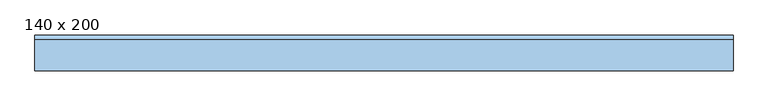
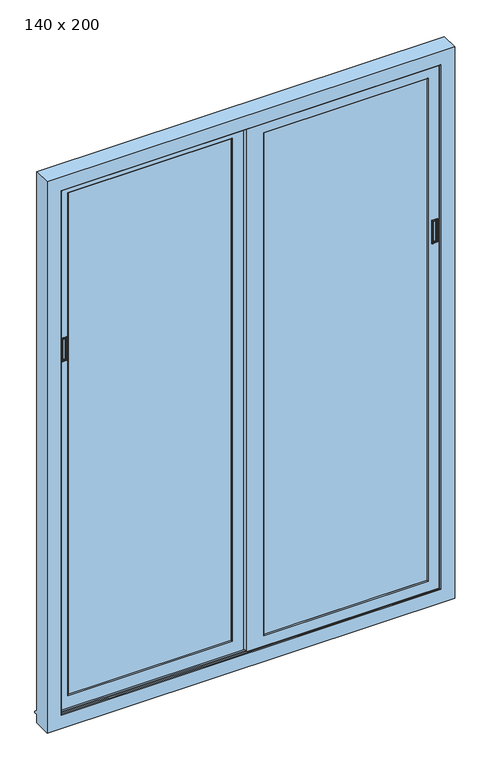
"""IFC4 building model written with IfcOpenShell, lengths in millimetres: window geometry, T-2 Vantaux coulissant : 140 x 200."""

from ifc_helpers import new_model, si_unit, point, frame, frame_2d, origin, place, context, project, spatial, polyline, circle_curve, ellipse_curve, trimmed, segment, composite_curve, outline, extrude, faceted_brep, source, transform, mapped, element, save
from ifc_brep_helpers import plane_surface, cylinder_surface, advanced_brep


def window_140_x_200_95ae9a11(model_context):
    return source(origin(), model_context, "Body", "SolidModel", [
        extrude(outline(composite_curve([segment(polyline([(-619.0038966, -79.0), (-619.0038966, -80.0233746)]), True, "CONTINUOUS"), segment(trimmed(circle_curve(frame_2d((-619.5038966, -80.0233746)), 0.5), [point((-619.0038966, -80.0233746))], [point((-619.5038966, -80.5233746))], False, "CARTESIAN"), True, "CONTINUOUS"), segment(polyline([(-619.5038966, -80.5233746), (-630.4961034, -80.5233746)]), True, "CONTINUOUS"), segment(trimmed(circle_curve(frame_2d((-630.4961034, -80.0233746)), 0.5), [point((-630.4961034, -80.5233746))], [point((-630.9961034, -80.0233746))], False, "CARTESIAN"), True, "CONTINUOUS"), segment(polyline([(-630.9961034, -80.0233746), (-630.9961034, -79.0), (-619.0038966, -79.0)]), True, "CONTINUOUS")], self_intersect=False)), frame((0.0, 0.0, 1311.5038966), z_axis=(0.0, 0.0, 1.0), x_axis=(1.0, 0.0, 0.0)), (0.0, 0.0, 1.0), 76.9922069),
        advanced_brep(
        [(-632.5, -74.0, 1390.0), (-632.5, -84.0, 1390.0), (-617.5, -84.0, 1390.0), (-617.5, -74.0, 1390.0), (-630.9961034, -84.4857579, 1388.4961034), (-630.9961034, -74.0, 1388.4961034), (-619.0038966, -74.0, 1388.4961034), (-619.0038966, -84.4857579, 1388.4961034), (-631.9961034, -85.4857579, 1389.4961034), (-618.0038966, -85.4857579, 1389.4961034), (-634.9999662, -84.0, 1392.4999662), (-633.5000338, -85.4857579, 1391.0000338), (-616.4999662, -85.4857579, 1391.0000338), (-615.0000338, -84.0, 1392.4999662), (-617.5, -84.0, 1310.0), (-617.5, -74.0, 1310.0), (-619.0038966, -74.0, 1311.5038966), (-619.0038966, -84.4857579, 1311.5038966), (-618.0038966, -85.4857579, 1310.5038966), (-616.4999662, -85.4857579, 1308.9999662), (-615.0000338, -84.0, 1307.5000338), (-632.5, -84.0, 1310.0), (-632.5, -74.0, 1310.0), (-630.9961034, -74.0, 1311.5038966), (-630.9961034, -84.4857579, 1311.5038966), (-631.9961034, -85.4857579, 1310.5038966), (-633.5000338, -85.4857579, 1308.9999662), (-634.9999662, -84.0, 1307.5000338)],
        [
            (0, 1),
            (1, 2),
            (2, 3),
            (3, 0),
            (4, 5),
            (5, 6),
            (6, 7),
            (7, 4),
            (8, 4, ellipse_curve(frame((-631.9961034, -84.4857579, 1389.4961034), z_axis=(0.7071067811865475, 0.0, 0.7071067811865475), x_axis=(-0.7071067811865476, 0.0, 0.7071067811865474)), 1.4142136, 1.0)),
            (7, 9, ellipse_curve(frame((-618.0038966, -84.4857579, 1389.4961034), z_axis=(-0.7071067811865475, 0.0, 0.7071067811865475), x_axis=(-0.7071067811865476, 0.0, -0.7071067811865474)), 1.4142136, 1.0)),
            (9, 8),
            (10, 11, ellipse_curve(frame((-633.5000338, -83.9857579, 1391.0000338), z_axis=(0.7071067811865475, 0.0, 0.7071067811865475), x_axis=(-0.7071067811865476, 0.0, 0.7071067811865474)), 2.1213203, 1.5)),
            (11, 12),
            (12, 13, ellipse_curve(frame((-616.4999662, -83.9857579, 1391.0000338), z_axis=(-0.7071067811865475, 0.0, 0.7071067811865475), x_axis=(-0.7071067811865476, 0.0, -0.7071067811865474)), 2.1213203, 1.5)),
            (13, 10),
            (2, 14),
            (14, 15),
            (15, 3),
            (6, 16),
            (16, 17),
            (17, 7),
            (17, 18, ellipse_curve(frame((-618.0038966, -84.4857579, 1310.5038966), z_axis=(0.7071067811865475, 0.0, 0.7071067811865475), x_axis=(-0.7071067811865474, 0.0, 0.7071067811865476)), 1.4142136, 1.0)),
            (18, 9),
            (12, 19),
            (19, 20, ellipse_curve(frame((-616.4999662, -83.9857579, 1308.9999662), z_axis=(0.7071067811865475, 0.0, 0.7071067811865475), x_axis=(-0.7071067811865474, 0.0, 0.7071067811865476)), 2.1213203, 1.5)),
            (20, 13),
            (14, 21),
            (21, 22),
            (22, 15),
            (16, 23),
            (23, 24),
            (24, 17),
            (24, 25, ellipse_curve(frame((-631.9961034, -84.4857579, 1310.5038966), z_axis=(0.7071067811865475, 0.0, -0.7071067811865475), x_axis=(0.7071067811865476, 0.0, 0.7071067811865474)), 1.4142136, 1.0)),
            (25, 18),
            (19, 26),
            (26, 27, ellipse_curve(frame((-633.5000338, -83.9857579, 1308.9999662), z_axis=(0.7071067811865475, 0.0, -0.7071067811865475), x_axis=(0.7071067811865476, 0.0, 0.7071067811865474)), 2.1213203, 1.5)),
            (27, 20),
            (27, 10),
            (1, 21),
            (0, 22),
            (5, 23),
            (4, 24),
            (8, 25),
            (11, 26),
        ],
        [
            plane_surface(frame((-632.5, -84.0, 1390.0), z_axis=(0.0, 0.0, 1.0), x_axis=(1.0, 0.0, 0.0))),
            plane_surface(frame((-630.9961034, -74.0, 1388.4961034), z_axis=(0.0, 0.0, -1.0), x_axis=(1.0, 0.0, 0.0))),
            cylinder_surface(frame((-632.5, -84.4857579, 1389.4961034), z_axis=(-1.0, 0.0, 0.0), x_axis=(0.0, 0.0, -1.0)), 1.0),
            cylinder_surface(frame((-632.5, -83.9857579, 1391.0000338), z_axis=(-1.0, 0.0, 0.0), x_axis=(0.0, 0.0, -1.0)), 1.5),
            plane_surface(frame((-617.5, -84.0, 1390.0), z_axis=(1.0, 0.0, 0.0), x_axis=(0.0, 0.0, -1.0))),
            plane_surface(frame((-619.0038966, -74.0, 1388.4961034), z_axis=(-1.0, 0.0, 0.0), x_axis=(0.0, 0.0, -1.0))),
            cylinder_surface(frame((-618.0038966, -84.4857579, 1390.0), z_axis=(0.0, 0.0, 1.0), x_axis=(-1.0, 0.0, 0.0)), 1.0),
            cylinder_surface(frame((-616.4999662, -83.9857579, 1390.0), z_axis=(0.0, 0.0, 1.0), x_axis=(-1.0, 0.0, 0.0)), 1.5),
            plane_surface(frame((-617.5, -84.0, 1310.0), z_axis=(0.0, 0.0, -1.0), x_axis=(-1.0, 0.0, 0.0))),
            plane_surface(frame((-619.0038966, -74.0, 1311.5038966), z_axis=(0.0, 0.0, 1.0), x_axis=(-1.0, 0.0, 0.0))),
            cylinder_surface(frame((-617.5, -84.4857579, 1310.5038966), z_axis=(1.0, 0.0, 0.0), x_axis=(0.0, 0.0, 1.0)), 1.0),
            cylinder_surface(frame((-617.5, -83.9857579, 1308.9999662), z_axis=(1.0, 0.0, 0.0), x_axis=(0.0, 0.0, 1.0)), 1.5),
            plane_surface(frame((-634.9999662, -84.0, 1307.5000338), z_axis=(0.0, 1.0, 0.0), x_axis=(0.0, 0.0, 1.0))),
            plane_surface(frame((-632.5, -84.0, 1310.0), z_axis=(-1.0, 0.0, 0.0), x_axis=(0.0, 0.0, 1.0))),
            plane_surface(frame((-632.5, -74.0, 1310.0), z_axis=(0.0, 1.0, 0.0), x_axis=(0.0, 0.0, 1.0))),
            plane_surface(frame((-630.9961034, -74.0, 1311.5038966), z_axis=(1.0, 0.0, 0.0), x_axis=(0.0, 0.0, 1.0))),
            cylinder_surface(frame((-631.9961034, -84.4857579, 1310.0), z_axis=(0.0, 0.0, -1.0), x_axis=(1.0, 0.0, 0.0)), 1.0),
            plane_surface(frame((-631.9961034, -85.4857579, 1310.5038966), z_axis=(0.0, -1.0, 0.0), x_axis=(0.0, 0.0, 1.0))),
            cylinder_surface(frame((-633.5000338, -83.9857579, 1310.0), z_axis=(0.0, 0.0, -1.0), x_axis=(1.0, 0.0, 0.0)), 1.5),
        ],
        [
            (0, [[1, 2, 3, 4]]),
            (1, [[5, 6, 7, 8]]),
            (2, [[9, -8, 10, 11]]),
            (3, [[12, 13, 14, 15]]),
            (4, [[-3, 16, 17, 18]]),
            (5, [[-7, 19, 20, 21]]),
            (6, [[-10, -21, 22, 23]]),
            (7, [[-14, 24, 25, 26]]),
            (8, [[-17, 27, 28, 29]]),
            (9, [[-20, 30, 31, 32]]),
            (10, [[-22, -32, 33, 34]]),
            (11, [[-25, 35, 36, 37]]),
            (12, [[-26, -37, 38, -15], [39, -27, -16, -2]]),
            (13, [[-28, -39, -1, 40]]),
            (14, [[-18, -29, -40, -4], [41, -30, -19, -6]]),
            (15, [[-31, -41, -5, 42]]),
            (16, [[-33, -42, -9, 43]]),
            (17, [[44, -35, -24, -13], [-23, -34, -43, -11]]),
            (18, [[-36, -44, -12, -38]]),
        ],
    ),
        extrude(outline(composite_curve([segment(polyline([(629.0038966, -100.0), (640.9961034, -100.0), (640.9961034, -101.0233746)]), True, "CONTINUOUS"), segment(trimmed(circle_curve(frame_2d((640.4961034, -101.0233746)), 0.5), [point((640.9961034, -101.0233746))], [point((640.4961034, -101.5233746))], False, "CARTESIAN"), True, "CONTINUOUS"), segment(polyline([(640.4961034, -101.5233746), (629.5038966, -101.5233746)]), True, "CONTINUOUS"), segment(trimmed(circle_curve(frame_2d((629.5038966, -101.0233746)), 0.5), [point((629.5038966, -101.5233746))], [point((629.0038966, -101.0233746))], False, "CARTESIAN"), True, "CONTINUOUS"), segment(polyline([(629.0038966, -101.0233746), (629.0038966, -100.0)]), True, "CONTINUOUS")], self_intersect=False)), frame((0.0, 0.0, 1311.5038966), z_axis=(0.0, 0.0, 1.0), x_axis=(1.0, 0.0, 0.0)), (0.0, 0.0, 1.0), 76.9922069),
        advanced_brep(
        [(642.5, -95.0, 1310.0), (642.5, -105.0, 1310.0), (627.5, -105.0, 1310.0), (627.5, -95.0, 1310.0), (640.9961034, -105.4857579, 1311.5038966), (640.9961034, -95.0, 1311.5038966), (629.0038966, -95.0, 1311.5038966), (629.0038966, -105.4857579, 1311.5038966), (641.9961034, -106.4857579, 1310.5038966), (628.0038966, -106.4857579, 1310.5038966), (644.9999662, -105.0, 1307.5000338), (643.5000338, -106.4857579, 1308.9999662), (626.4999662, -106.4857579, 1308.9999662), (625.0000338, -105.0, 1307.5000338), (627.5, -105.0, 1390.0), (627.5, -95.0, 1390.0), (629.0038966, -95.0, 1388.4961034), (629.0038966, -105.4857579, 1388.4961034), (628.0038966, -106.4857579, 1389.4961034), (626.4999662, -106.4857579, 1391.0000338), (625.0000338, -105.0, 1392.4999662), (642.5, -105.0, 1390.0), (642.5, -95.0, 1390.0), (640.9961034, -95.0, 1388.4961034), (640.9961034, -105.4857579, 1388.4961034), (641.9961034, -106.4857579, 1389.4961034), (643.5000338, -106.4857579, 1391.0000338), (644.9999662, -105.0, 1392.4999662)],
        [
            (0, 1),
            (1, 2),
            (2, 3),
            (3, 0),
            (4, 5),
            (5, 6),
            (6, 7),
            (7, 4),
            (8, 4, ellipse_curve(frame((641.9961034, -105.4857579, 1310.5038966), z_axis=(-0.7071067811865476, 0.0, -0.7071067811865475), x_axis=(0.7071067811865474, 0.0, -0.7071067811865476)), 1.4142136, 1.0)),
            (7, 9, ellipse_curve(frame((628.0038966, -105.4857579, 1310.5038966), z_axis=(0.7071067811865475, 0.0, -0.7071067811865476), x_axis=(0.7071067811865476, 0.0, 0.7071067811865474)), 1.4142136, 1.0)),
            (9, 8),
            (10, 11, ellipse_curve(frame((643.5000338, -104.9857579, 1308.9999662), z_axis=(-0.7071067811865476, 0.0, -0.7071067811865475), x_axis=(0.7071067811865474, 0.0, -0.7071067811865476)), 2.1213203, 1.5)),
            (11, 12),
            (12, 13, ellipse_curve(frame((626.4999662, -104.9857579, 1308.9999662), z_axis=(0.7071067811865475, 0.0, -0.7071067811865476), x_axis=(0.7071067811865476, 0.0, 0.7071067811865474)), 2.1213203, 1.5)),
            (13, 10),
            (2, 14),
            (14, 15),
            (15, 3),
            (6, 16),
            (16, 17),
            (17, 7),
            (17, 18, ellipse_curve(frame((628.0038966, -105.4857579, 1389.4961034), z_axis=(-0.7071067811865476, 0.0, -0.7071067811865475), x_axis=(0.7071067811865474, 0.0, -0.7071067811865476)), 1.4142136, 1.0)),
            (18, 9),
            (12, 19),
            (19, 20, ellipse_curve(frame((626.4999662, -104.9857579, 1391.0000338), z_axis=(-0.7071067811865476, 0.0, -0.7071067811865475), x_axis=(0.7071067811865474, 0.0, -0.7071067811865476)), 2.1213203, 1.5)),
            (20, 13),
            (14, 21),
            (21, 22),
            (22, 15),
            (16, 23),
            (23, 24),
            (24, 17),
            (24, 25, ellipse_curve(frame((641.9961034, -105.4857579, 1389.4961034), z_axis=(-0.7071067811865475, 0.0, 0.7071067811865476), x_axis=(-0.7071067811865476, 0.0, -0.7071067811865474)), 1.4142136, 1.0)),
            (25, 18),
            (19, 26),
            (26, 27, ellipse_curve(frame((643.5000338, -104.9857579, 1391.0000338), z_axis=(-0.7071067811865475, 0.0, 0.7071067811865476), x_axis=(-0.7071067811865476, 0.0, -0.7071067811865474)), 2.1213203, 1.5)),
            (27, 20),
            (27, 10),
            (1, 21),
            (0, 22),
            (5, 23),
            (4, 24),
            (8, 25),
            (11, 26),
        ],
        [
            plane_surface(frame((642.5, -105.0, 1310.0), z_axis=(0.0, 0.0, -1.0), x_axis=(-1.0, 0.0, 0.0))),
            plane_surface(frame((640.9961034, -95.0, 1311.5038966), z_axis=(0.0, 0.0, 1.0), x_axis=(-1.0, 0.0, 0.0))),
            cylinder_surface(frame((642.5, -105.4857579, 1310.5038966), z_axis=(1.0, 0.0, 0.0), x_axis=(0.0, 0.0, 1.0)), 1.0),
            cylinder_surface(frame((642.5, -104.9857579, 1308.9999662), z_axis=(1.0, 0.0, 0.0), x_axis=(0.0, 0.0, 1.0)), 1.5),
            plane_surface(frame((627.5, -105.0, 1310.0), z_axis=(-1.0, 0.0, 0.0), x_axis=(0.0, 0.0, 1.0))),
            plane_surface(frame((629.0038966, -95.0, 1311.5038966), z_axis=(1.0, 0.0, 0.0), x_axis=(0.0, 0.0, 1.0))),
            cylinder_surface(frame((628.0038966, -105.4857579, 1310.0), z_axis=(0.0, 0.0, -1.0), x_axis=(1.0, 0.0, 0.0)), 1.0),
            cylinder_surface(frame((626.4999662, -104.9857579, 1310.0), z_axis=(0.0, 0.0, -1.0), x_axis=(1.0, 0.0, 0.0)), 1.5),
            plane_surface(frame((627.5, -105.0, 1390.0), z_axis=(0.0, 0.0, 1.0), x_axis=(1.0, 0.0, 0.0))),
            plane_surface(frame((629.0038966, -95.0, 1388.4961034), z_axis=(0.0, 0.0, -1.0), x_axis=(1.0, 0.0, 0.0))),
            cylinder_surface(frame((627.5, -105.4857579, 1389.4961034), z_axis=(-1.0, 0.0, 0.0), x_axis=(0.0, 0.0, -1.0)), 1.0),
            cylinder_surface(frame((627.5, -104.9857579, 1391.0000338), z_axis=(-1.0, 0.0, 0.0), x_axis=(0.0, 0.0, -1.0)), 1.5),
            plane_surface(frame((644.9999662, -105.0, 1392.4999662), z_axis=(0.0, 1.0, 0.0), x_axis=(0.0, 0.0, -1.0))),
            plane_surface(frame((642.5, -105.0, 1390.0), z_axis=(1.0, 0.0, 0.0), x_axis=(0.0, 0.0, -1.0))),
            plane_surface(frame((642.5, -95.0, 1390.0), z_axis=(0.0, 1.0, 0.0), x_axis=(0.0, 0.0, -1.0))),
            plane_surface(frame((640.9961034, -95.0, 1388.4961034), z_axis=(-1.0, 0.0, 0.0), x_axis=(0.0, 0.0, -1.0))),
            cylinder_surface(frame((641.9961034, -105.4857579, 1390.0), z_axis=(0.0, 0.0, 1.0), x_axis=(-1.0, 0.0, 0.0)), 1.0),
            plane_surface(frame((641.9961034, -106.4857579, 1389.4961034), z_axis=(0.0, -1.0, 0.0), x_axis=(0.0, 0.0, -1.0))),
            cylinder_surface(frame((643.5000338, -104.9857579, 1390.0), z_axis=(0.0, 0.0, 1.0), x_axis=(-1.0, 0.0, 0.0)), 1.5),
        ],
        [
            (0, [[1, 2, 3, 4]]),
            (1, [[5, 6, 7, 8]]),
            (2, [[9, -8, 10, 11]]),
            (3, [[12, 13, 14, 15]]),
            (4, [[-3, 16, 17, 18]]),
            (5, [[-7, 19, 20, 21]]),
            (6, [[-10, -21, 22, 23]]),
            (7, [[-14, 24, 25, 26]]),
            (8, [[-17, 27, 28, 29]]),
            (9, [[-20, 30, 31, 32]]),
            (10, [[-22, -32, 33, 34]]),
            (11, [[-25, 35, 36, 37]]),
            (12, [[-26, -37, 38, -15], [39, -27, -16, -2]]),
            (13, [[-28, -39, -1, 40]]),
            (14, [[-18, -29, -40, -4], [41, -30, -19, -6]]),
            (15, [[-31, -41, -5, 42]]),
            (16, [[-33, -42, -9, 43]]),
            (17, [[44, -35, -24, -13], [-23, -34, -43, -11]]),
            (18, [[-36, -44, -12, -38]]),
        ],
    ),
        faceted_brep([(47.1715729, -86.0, 87.1715729), (50.0, -88.8284271, 90.0), (610.0, -88.8284271, 90.0), (612.8284271, -86.0, 87.1715729), (47.1715729, -86.0, 1912.8284271), (50.0, -88.8284271, 1910.0), (-10.0, -86.0, 1960.0), (660.0, -86.0, 1960.0), (660.0, -86.0, 40.0), (-10.0, -86.0, 40.0), (612.8284271, -86.0, 1912.8284271), (50.0, -102.1715729, 1910.0), (50.0, -102.1715729, 90.0), (47.1715729, -105.0, 1912.8284271), (47.1715729, -105.0, 87.1715729), (610.0, -102.1715729, 90.0), (610.0, -88.8284271, 1910.0), (610.0, -102.1715729, 1910.0), (612.8284271, -105.0, 87.1715729), (612.8284271, -105.0, 1912.8284271), (660.0, -105.0, 1960.0), (660.0, -105.0, 40.0), (660.0, -98.0, 40.0), (660.0, -98.0, 50.0), (660.0, -93.0, 50.0), (660.0, -93.0, 40.0), (-10.0, -105.0, 1960.0), (-10.0, -105.0, 40.0), (642.5, -105.0, 1310.0), (627.5, -105.0, 1310.0), (627.5, -105.0, 1390.0), (642.5, -105.0, 1390.0), (-10.0, -93.0, 40.0), (-10.0, -98.0, 40.0), (-10.0, -98.0, 50.0), (-10.0, -93.0, 50.0), (642.5, -95.0, 1310.0), (627.5, -95.0, 1310.0), (627.5, -95.0, 1390.0), (642.5, -95.0, 1390.0)], [[[0, 1, 2, 3]], [[1, 0, 4, 5]], [[6, 7, 8, 9], [4, 0, 3, 10]], [[1, 5, 11, 12]], [[12, 11, 13, 14]], [[1, 12, 15, 2]], [[16, 10, 3, 2]], [[17, 16, 2, 15]], [[17, 15, 18, 19]], [[7, 20, 21, 22, 23, 24, 25, 8]], [[20, 26, 27, 21], [14, 13, 19, 18], [28, 29, 30, 31]], [[8, 25, 32, 9]], [[21, 27, 33, 22]], [[34, 23, 22, 33]], [[34, 35, 24, 23]], [[24, 35, 32, 25]], [[15, 12, 14, 18]], [[26, 6, 9, 32, 35, 34, 33, 27]], [[29, 28, 36, 37]], [[30, 29, 37, 38]], [[31, 30, 38, 39]], [[28, 31, 39, 36]], [[37, 36, 39, 38]], [[5, 4, 10, 16]], [[11, 5, 16, 17]], [[20, 7, 6, 26]], [[11, 17, 19, 13]]]),
        faceted_brep([(-50.0, -67.8284271, 90.0), (-47.1715729, -65.0, 87.1715729), (-612.8284271, -65.0, 87.1715729), (-610.0, -67.8284271, 90.0), (-50.0, -67.8284271, 1910.0), (-47.1715729, -65.0, 1912.8284271), (-50.0, -81.1715729, 90.0), (-50.0, -81.1715729, 1910.0), (-660.0, -65.0, 40.0), (-660.0, -65.0, 1960.0), (10.0, -65.0, 1960.0), (10.0, -65.0, 40.0), (-612.8284271, -65.0, 1912.8284271), (-610.0, -67.8284271, 1910.0), (-610.0, -81.1715729, 1910.0), (-610.0, -81.1715729, 90.0), (-660.0, -72.0, 40.0), (-660.0, -72.0, 50.0), (-660.0, -77.0, 50.0), (-660.0, -77.0, 40.0), (-660.0, -84.0, 40.0), (-660.0, -84.0, 1960.0), (10.0, -84.0, 40.0), (10.0, -77.0, 40.0), (10.0, -77.0, 50.0), (10.0, -72.0, 50.0), (10.0, -72.0, 40.0), (10.0, -84.0, 1960.0), (-47.1715729, -84.0, 1912.8284271), (-47.1715729, -84.0, 87.1715729), (-612.8284271, -84.0, 87.1715729), (-612.8284271, -84.0, 1912.8284271), (-632.5, -84.0, 1390.0), (-617.5, -84.0, 1390.0), (-617.5, -84.0, 1310.0), (-632.5, -84.0, 1310.0), (-632.5, -74.0, 1390.0), (-617.5, -74.0, 1390.0), (-617.5, -74.0, 1310.0), (-632.5, -74.0, 1310.0)], [[[0, 1, 2, 3]], [[1, 0, 4, 5]], [[4, 0, 6, 7]], [[8, 9, 10, 11], [1, 5, 12, 2]], [[12, 13, 3, 2]], [[3, 13, 14, 15]], [[9, 8, 16, 17, 18, 19, 20, 21]], [[22, 23, 24, 25, 26, 11, 10, 27]], [[8, 11, 26, 16]], [[22, 20, 19, 23]], [[21, 20, 22, 27], [28, 29, 30, 31], [32, 33, 34, 35]], [[29, 28, 7, 6]], [[30, 29, 6, 15]], [[31, 30, 15, 14]], [[33, 32, 36, 37]], [[34, 33, 37, 38]], [[35, 34, 38, 39]], [[32, 35, 39, 36]], [[0, 3, 15, 6]], [[25, 17, 16, 26]], [[25, 24, 18, 17]], [[18, 24, 23, 19]], [[37, 36, 39, 38]], [[5, 4, 13, 12]], [[13, 4, 7, 14]], [[10, 9, 21, 27]], [[28, 31, 14, 7]]]),
        extrude(outline(polyline([(50.0, -102.1715729), (50.0, -88.8284271), (610.0, -88.8284271), (610.0, -102.1715729), (50.0, -102.1715729)])), frame((0.0, 0.0, 90.0), z_axis=(0.0, 0.0, 1.0), x_axis=(1.0, 0.0, 0.0)), (0.0, 0.0, 1.0), 1820.0),
        extrude(outline(polyline([(-610.0, -81.1715729), (-610.0, -67.8284271), (-50.0, -67.8284271), (-50.0, -81.1715729), (-610.0, -81.1715729)])), frame((0.0, 0.0, 90.0), z_axis=(0.0, 0.0, 1.0), x_axis=(1.0, 0.0, 0.0)), (0.0, 0.0, 1.0), 1820.0),
        faceted_brep([(700.0, -50.0, 0.0), (700.0, -50.0, 30.0), (700.0, -40.0, 30.0), (700.0, -40.0, 35.0), (700.0, -50.0, 45.0), (700.0, -50.0, 2000.0), (700.0, -112.0, 2000.0), (700.0, -112.0, 0.0), (-700.0, -50.0, 0.0), (-700.0, -50.0, 30.0), (-700.0, -40.0, 30.0), (-700.0, -40.0, 35.0), (-700.0, -50.0, 45.0), (-655.0, -50.0, 45.0), (-650.0, -55.0, 50.0), (650.0, -55.0, 50.0), (655.0, -50.0, 45.0), (-700.0, -50.0, 2000.0), (655.0, -50.0, 1955.0), (-655.0, -50.0, 1955.0), (-700.0, -112.0, 0.0), (-700.0, -112.0, 2000.0), (-652.0, -112.0, 1952.0), (652.0, -112.0, 1952.0), (652.0, -112.0, 48.0), (-652.0, -112.0, 48.0), (650.0, -110.0, 1950.0), (650.0, -110.0, 50.0), (-650.0, -110.0, 50.0), (-650.0, -110.0, 1950.0), (660.0, -65.0, 1960.0), (-660.0, -65.0, 1960.0), (-660.0, -65.0, 40.0), (660.0, -65.0, 40.0), (-650.0, -65.0, 1950.0), (650.0, -65.0, 1950.0), (650.0, -65.0, 50.0), (-650.0, -65.0, 50.0), (-660.0, -72.0, 40.0), (-660.0, -77.0, 40.0), (-660.0, -105.0, 40.0), (660.0, -105.0, 40.0), (660.0, -98.0, 40.0), (660.0, -93.0, 40.0), (-660.0, -105.0, 1960.0), (660.0, -105.0, 1960.0), (650.0, -105.0, 1950.0), (-650.0, -105.0, 1950.0), (-650.0, -105.0, 50.0), (650.0, -105.0, 50.0), (650.0, -55.0, 1950.0), (-650.0, -55.0, 1950.0)], [[[0, 1, 2, 3, 4, 5, 6, 7]], [[1, 0, 8, 9]], [[2, 1, 9, 10]], [[3, 2, 10, 11]], [[3, 11, 12, 13, 14, 15, 16, 4]], [[17, 5, 4, 16, 18, 19, 13, 12]], [[20, 7, 6, 21], [22, 23, 24, 25]], [[0, 7, 20, 8]], [[8, 20, 21, 17, 12, 11, 10, 9]], [[23, 26, 27, 24]], [[25, 24, 27, 28]], [[29, 22, 25, 28]], [[30, 31, 32, 33], [34, 35, 36, 37]], [[33, 32, 38, 39, 40, 41, 42, 43]], [[31, 44, 40, 39, 38, 32]], [[44, 45, 41, 40], [46, 47, 48, 49]], [[45, 30, 33, 43, 42, 41]], [[35, 50, 15, 36]], [[37, 36, 15, 14]], [[51, 34, 37, 14]], [[50, 18, 16, 15]], [[19, 51, 14, 13]], [[47, 29, 28, 48]], [[28, 27, 49, 48]], [[26, 46, 49, 27]], [[31, 30, 45, 44]], [[5, 17, 21, 6]], [[35, 34, 51, 50]], [[19, 18, 50, 51]], [[47, 46, 26, 29]], [[23, 22, 29, 26]]]),
        extrude(outline(polyline([(-660.0, -77.0), (-660.0, -72.0), (660.0, -72.0), (660.0, -77.0), (-660.0, -77.0)])), frame((0.0, 0.0, 40.0), z_axis=(0.0, 0.0, 1.0), x_axis=(1.0, 0.0, 0.0)), (0.0, 0.0, 1.0), 10.0),
        extrude(outline(polyline([(-660.0, -98.0), (-660.0, -93.0), (660.0, -93.0), (660.0, -98.0), (-660.0, -98.0)])), frame((0.0, 0.0, 40.0), z_axis=(0.0, 0.0, 1.0), x_axis=(1.0, 0.0, 0.0)), (0.0, 0.0, 1.0), 10.0),
    ])


if __name__ == "__main__":
    model = new_model("IFC4")
    model_context = context("Model", 3, world=origin())
    ifc_project = project(units=[si_unit("LENGTHUNIT", "METRE", prefix="MILLI")], contexts=[model_context])
    site = spatial("IfcSite", under=ifc_project)
    building = spatial("IfcBuilding", under=site)
    placement = place(None, origin())
    window_140_x_200_shape = window_140_x_200_95ae9a11(model_context)
    element("IfcWindow", 1, ObjectType="T-2 Vantaux coulissant : 140 x 200", at=placement, inside=building, context=model_context, shape_type="MappedRepresentation", body=[
        mapped(window_140_x_200_shape, transform((0.0, 0.0, 0.0), x_axis=(1.0, 0.0, 0.0), y_axis=(0.0, 1.0, 0.0), z_axis=(0.0, 0.0, 1.0))),
    ])
    save(model, "model.ifc")
